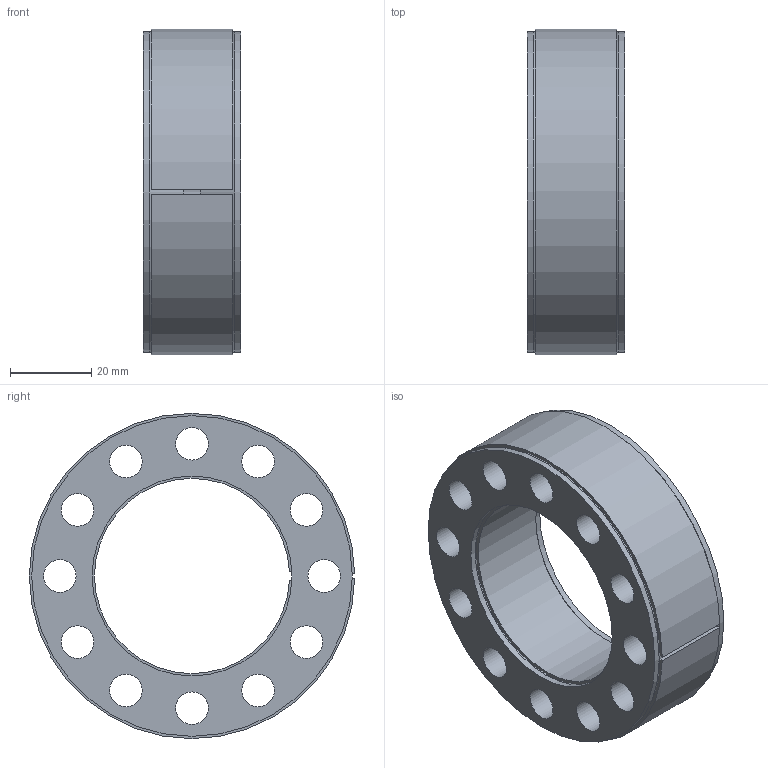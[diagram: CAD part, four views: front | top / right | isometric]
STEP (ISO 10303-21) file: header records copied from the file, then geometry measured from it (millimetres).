
FILE_DESCRIPTION(/* description */ (''),/* implementation_level */ '2;1');
FILE_NAME(/* name */ '\\emc\Varie\PROGETTO SCUOLA\06\0640\06400048\06400048-3d.stp',/* time_stamp */ '2017-12-27T11:27:19+01:00',/* author */ ('stagistacad'),/* organization */ (''),/* preprocessor_version */ 'ST-DEVELOPER v15.6',/* originating_system */ 'Autodesk Inventor 2015',/* authorisation */ '');
FILE_SCHEMA (('AUTOMOTIVE_DESIGN { 1 0 10303 214 3 1 1 }'));
Length unit declared in the file: millimetre
Products named in the file (3): 06400048 Anelli est+int; 06400048 Anelli forati; 06400048 Assieme
Bounding box: 24 x 80 x 80 mm (x, y, z)
Volume: 54901.9 mm3; surface area: 39243.4 mm2
Topology: 4 solids, 4 shells, 60 faces, 140 edges, 92 vertices
Faces by surface type: cylinder 36, plane 16, cone 8
Full cylindrical faces by diameter (mm): 8 x12, 8.5 x12, 10 x4, 49.14 x2, 78.85 x2
Entity records: 1735 total; most frequent: DIRECTION 310, CARTESIAN_POINT 269, ORIENTED_EDGE 208, EDGE_LOOP 152, AXIS2_PLACEMENT_3D 145, EDGE_CURVE 104, FACE_BOUND 92, VERTEX_POINT 92
